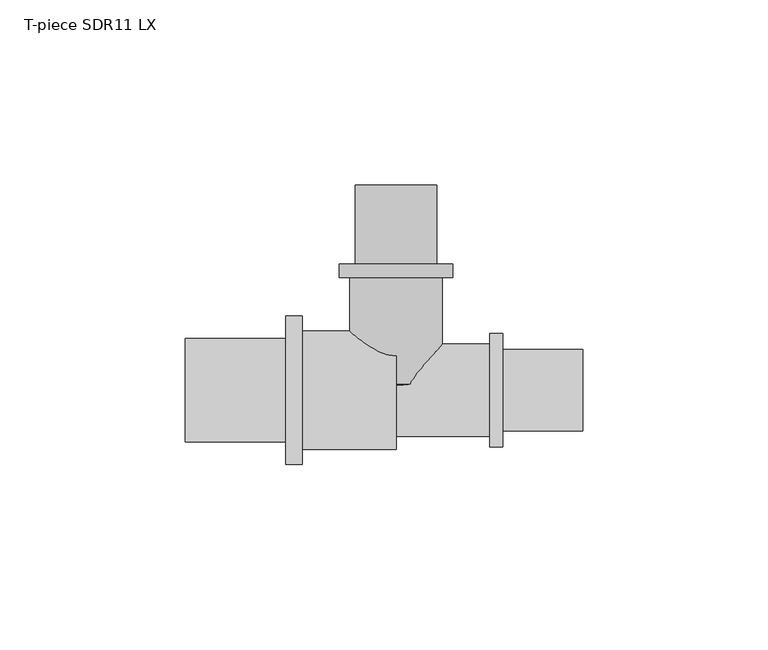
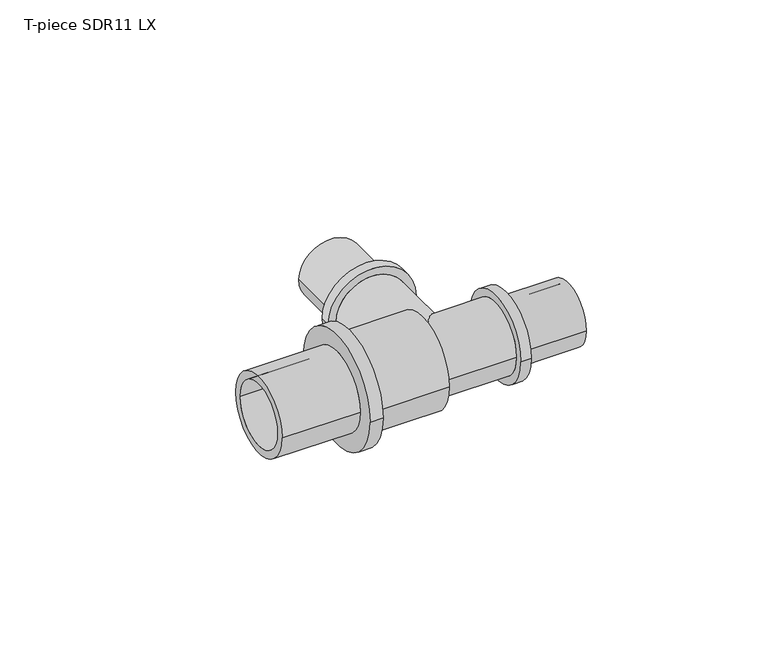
"""IFC4 building model written with IfcOpenShell, lengths in millimetres: pipe fitting geometry, T-piece SDR11 LX : T-piece LX SDR11 LX."""

from ifc_helpers import new_model, si_unit, point, frame, origin, place, context, project, spatial, polyline, circle_curve, ellipse_curve, trimmed, source, transform, mapped, element, save
from ifc_brep_helpers import plane_surface, cylinder_surface, revolved_surface, advanced_brep


def t_piece_sdr11_lx_d24ca570(model_context):
    return source(origin(), model_context, "Body", "AdvancedBrep", [
        advanced_brep(
        [(12.5, 1.6314295, 0.0), (-12.5, 1.6314295, 0.0), (-12.5, 30.4, 0.0), (12.5, 30.4, 0.0), (8.9, 55.3, 0.0), (-8.9, 55.3, 0.0), (-8.9, 0.0, 0.0), (8.9, 0.0, 0.0), (11.0, 34.0, 0.0), (-11.0, 34.0, 0.0), (-11.0, 55.3, 0.0), (11.0, 55.3, 0.0), (15.25, 30.4, 0.0), (-15.25, 30.4, 0.0), (-15.25, 34.0, 0.0), (15.25, 34.0, 0.0)],
        [
            (0, 1, circle_curve(frame((0.0, 1.6314295, 0.0), z_axis=(0.0, 1.0, 0.0), x_axis=(-1.0, 0.0, 0.0)), 12.5)),
            (1, 2),
            (2, 3, circle_curve(frame((0.0, 30.4, 0.0), z_axis=(0.0, -1.0, 0.0), x_axis=(-1.0, 0.0, 0.0)), 12.5)),
            (3, 0),
            (4, 5, circle_curve(frame((0.0, 55.3, 0.0), z_axis=(0.0, 1.0, 0.0), x_axis=(-1.0, 0.0, 0.0)), 8.9)),
            (5, 6),
            (6, 7, circle_curve(frame((0.0, 0.0, 0.0), z_axis=(0.0, -1.0, 0.0), x_axis=(-1.0, 0.0, 0.0)), 8.9)),
            (7, 4),
            (8, 9, circle_curve(frame((0.0, 34.0, 0.0), z_axis=(0.0, 1.0, 0.0), x_axis=(-1.0, 0.0, 0.0)), 11.0)),
            (9, 10),
            (10, 11, circle_curve(frame((0.0, 55.3, 0.0), z_axis=(0.0, -1.0, 0.0), x_axis=(-1.0, 0.0, 0.0)), 11.0)),
            (11, 8),
            (12, 13, circle_curve(frame((0.0, 30.4, 0.0), z_axis=(0.0, 1.0, 0.0), x_axis=(-1.0, 0.0, 0.0)), 15.25)),
            (13, 14),
            (14, 15, circle_curve(frame((0.0, 34.0, 0.0), z_axis=(0.0, -1.0, 0.0), x_axis=(-1.0, 0.0, 0.0)), 15.25)),
            (15, 12),
            (12, 13, circle_curve(frame((0.0, 30.4, 0.0), z_axis=(0.0, -1.0, 0.0), x_axis=(1.0, 0.0, 0.0)), 15.25)),
            (2, 3, circle_curve(frame((0.0, 30.4, 0.0), z_axis=(0.0, 1.0, 0.0), x_axis=(1.0, 0.0, 0.0)), 12.5)),
            (1, 0, circle_curve(frame((0.0, 1.6314295, 0.0), z_axis=(0.0, 1.0, 0.0), x_axis=(1.0, 0.0, 0.0)), 12.5)),
            (5, 4, circle_curve(frame((0.0, 55.3, 0.0), z_axis=(0.0, 1.0, 0.0), x_axis=(1.0, 0.0, 0.0)), 8.9)),
            (7, 6, circle_curve(frame((0.0, 0.0, 0.0), z_axis=(0.0, -1.0, 0.0), x_axis=(1.0, 0.0, 0.0)), 8.9)),
            (10, 11, circle_curve(frame((0.0, 55.3, 0.0), z_axis=(0.0, 1.0, 0.0), x_axis=(1.0, 0.0, 0.0)), 11.0)),
            (9, 8, circle_curve(frame((0.0, 34.0, 0.0), z_axis=(0.0, 1.0, 0.0), x_axis=(1.0, 0.0, 0.0)), 11.0)),
            (14, 15, circle_curve(frame((0.0, 34.0, 0.0), z_axis=(0.0, 1.0, 0.0), x_axis=(1.0, 0.0, 0.0)), 15.25)),
            (6, 1, circle_curve(frame((-4.1462802, 15.2775046, 0.0), z_axis=(0.0, 0.0, -1.0), x_axis=(0.0, -1.0, 0.0)), 16.0)),
            (0, 7, circle_curve(frame((4.1462802, 15.2775046, 0.0), z_axis=(0.0, 0.0, -1.0), x_axis=(0.0, -1.0, 0.0)), 16.0)),
        ],
        [
            cylinder_surface(frame((0.0, 0.0, 0.0), z_axis=(0.0, -1.0, 0.0), x_axis=(-1.0, 0.0, 0.0)), 12.5),
            revolved_surface(polyline([(-8.9, 0.0, 0.0), (-8.9, 55.3, 0.0)]), (0.0, 0.0, 0.0), (0.0, -1.0, 0.0)),
            cylinder_surface(frame((0.0, 0.0, 0.0), z_axis=(0.0, -1.0, 0.0), x_axis=(-1.0, 0.0, 0.0)), 11.0),
            cylinder_surface(frame((0.0, 0.0, 0.0), z_axis=(0.0, -1.0, 0.0), x_axis=(-1.0, 0.0, 0.0)), 15.25),
            plane_surface(frame((0.0, 30.4, 0.0), z_axis=(0.0, -1.0, 0.0), x_axis=(1.0, 0.0, 0.0))),
            cylinder_surface(frame((0.0, 0.0, 0.0), z_axis=(0.0, -1.0, 0.0), x_axis=(1.0, 0.0, 0.0)), 12.5),
            revolved_surface(polyline([(8.9, 0.0, 0.0), (8.9, 55.3, 0.0)]), (0.0, 0.0, 0.0), (0.0, -1.0, 0.0)),
            plane_surface(frame((0.0, 55.3, 0.0), z_axis=(0.0, 1.0, 0.0), x_axis=(1.0, 0.0, 0.0))),
            cylinder_surface(frame((0.0, 0.0, 0.0), z_axis=(0.0, -1.0, 0.0), x_axis=(1.0, 0.0, 0.0)), 11.0),
            plane_surface(frame((0.0, 34.0, 0.0), z_axis=(0.0, 1.0, 0.0), x_axis=(1.0, 0.0, 0.0))),
            cylinder_surface(frame((0.0, 0.0, 0.0), z_axis=(0.0, -1.0, 0.0), x_axis=(1.0, 0.0, 0.0)), 15.25),
            revolved_surface(trimmed(ellipse_curve(frame((-4.1462802, 15.2775046, 0.0), z_axis=(0.0, 0.0, 1.0), x_axis=(0.0, -1.0, 0.0)), 16.0, 16.0), [point((-12.5, 1.6314295, 0.0))], [point((-8.9, 0.0, 0.0))], True, "CARTESIAN"), (0.0, 0.0, 0.0), (0.0, -1.0, 0.0)),
            revolved_surface(trimmed(ellipse_curve(frame((4.1462802, 15.2775046, 0.0), z_axis=(0.0, 0.0, -1.0), x_axis=(0.0, -1.0, 0.0)), 16.0, 16.0), [point((12.5, 1.6314295, 0.0))], [point((8.9, 0.0, 0.0))], True, "CARTESIAN"), (0.0, 0.0, 0.0), (0.0, -1.0, 0.0)),
        ],
        [
            (0, [[1, 2, 3, 4]]),
            (1, [[5, 6, 7, 8]]),
            (2, [[9, 10, 11, 12]]),
            (3, [[13, 14, 15, 16]]),
            (4, [[17, -13], [18, -3]]),
            (5, [[19, -4, -18, -2]]),
            (6, [[20, -8, 21, -6]]),
            (7, [[22, -11], [-20, -5]]),
            (8, [[23, -12, -22, -10]]),
            (9, [[24, -15], [-23, -9]]),
            (10, [[-17, -16, -24, -14]]),
            (11, [[-7, 25, -1, 26]]),
            (12, [[-21, -26, -19, -25]]),
        ],
    ),
        advanced_brep(
        [(25.2, 12.5, 0.0), (25.2, -12.5, 0.0), (0.0, -12.5, 0.0), (0.0, 12.5, 0.0), (0.0, 8.9, 0.0), (0.0, -8.9, 0.0), (50.3, -8.9, 0.0), (50.3, 8.9, 0.0), (50.3, 11.0, 0.0), (50.3, -11.0, 0.0), (28.8, -11.0, 0.0), (28.8, 11.0, 0.0), (28.8, 15.25, 0.0), (28.8, -15.25, 0.0), (25.2, -15.25, 0.0), (25.2, 15.25, 0.0)],
        [
            (0, 1, circle_curve(frame((25.2, 0.0, 0.0), z_axis=(-1.0, 0.0, 0.0), x_axis=(0.0, -1.0, 0.0)), 12.5)),
            (1, 2),
            (2, 3, circle_curve(frame((0.0, 0.0, 0.0), z_axis=(1.0, 0.0, 0.0), x_axis=(0.0, -1.0, 0.0)), 12.5)),
            (3, 0),
            (4, 5, circle_curve(frame((0.0, 0.0, 0.0), z_axis=(-1.0, 0.0, 0.0), x_axis=(0.0, -1.0, 0.0)), 8.9)),
            (5, 6),
            (6, 7, circle_curve(frame((50.3, 0.0, 0.0), z_axis=(1.0, 0.0, 0.0), x_axis=(0.0, -1.0, 0.0)), 8.9)),
            (7, 4),
            (8, 9, circle_curve(frame((50.3, 0.0, 0.0), z_axis=(-1.0, 0.0, 0.0), x_axis=(0.0, -1.0, 0.0)), 11.0)),
            (9, 10),
            (10, 11, circle_curve(frame((28.8, 0.0, 0.0), z_axis=(1.0, 0.0, 0.0), x_axis=(0.0, -1.0, 0.0)), 11.0)),
            (11, 8),
            (12, 13, circle_curve(frame((28.8, 0.0, 0.0), z_axis=(-1.0, 0.0, 0.0), x_axis=(0.0, -1.0, 0.0)), 15.25)),
            (13, 14),
            (14, 15, circle_curve(frame((25.2, 0.0, 0.0), z_axis=(1.0, 0.0, 0.0), x_axis=(0.0, -1.0, 0.0)), 15.25)),
            (15, 12),
            (14, 15, circle_curve(frame((25.2, 0.0, 0.0), z_axis=(-1.0, 0.0, 0.0), x_axis=(0.0, 1.0, 0.0)), 15.25)),
            (0, 1, circle_curve(frame((25.2, 0.0, 0.0), z_axis=(1.0, 0.0, 0.0), x_axis=(0.0, 1.0, 0.0)), 12.5)),
            (3, 2, circle_curve(frame((0.0, 0.0, 0.0), z_axis=(1.0, 0.0, 0.0), x_axis=(0.0, 1.0, 0.0)), 12.5)),
            (4, 5, circle_curve(frame((0.0, 0.0, 0.0), z_axis=(1.0, 0.0, 0.0), x_axis=(0.0, 1.0, 0.0)), 8.9)),
            (7, 6, circle_curve(frame((50.3, 0.0, 0.0), z_axis=(1.0, 0.0, 0.0), x_axis=(0.0, 1.0, 0.0)), 8.9)),
            (8, 9, circle_curve(frame((50.3, 0.0, 0.0), z_axis=(1.0, 0.0, 0.0), x_axis=(0.0, 1.0, 0.0)), 11.0)),
            (11, 10, circle_curve(frame((28.8, 0.0, 0.0), z_axis=(1.0, 0.0, 0.0), x_axis=(0.0, 1.0, 0.0)), 11.0)),
            (12, 13, circle_curve(frame((28.8, 0.0, 0.0), z_axis=(1.0, 0.0, 0.0), x_axis=(0.0, 1.0, 0.0)), 15.25)),
        ],
        [
            cylinder_surface(frame((0.0, 0.0, 0.0), z_axis=(1.0, 0.0, 0.0), x_axis=(0.0, -1.0, 0.0)), 12.5),
            revolved_surface(polyline([(50.3, -8.9, 0.0), (0.0, -8.9, 0.0)]), (0.0, 0.0, 0.0), (1.0, 0.0, 0.0)),
            cylinder_surface(frame((0.0, 0.0, 0.0), z_axis=(1.0, 0.0, 0.0), x_axis=(0.0, -1.0, 0.0)), 11.0),
            cylinder_surface(frame((0.0, 0.0, 0.0), z_axis=(1.0, 0.0, 0.0), x_axis=(0.0, -1.0, 0.0)), 15.25),
            plane_surface(frame((25.2, 0.0, 0.0), z_axis=(-1.0, 0.0, 0.0), x_axis=(0.0, 1.0, 0.0))),
            cylinder_surface(frame((0.0, 0.0, 0.0), z_axis=(1.0, 0.0, 0.0), x_axis=(0.0, 1.0, 0.0)), 12.5),
            plane_surface(frame((0.0, 0.0, 0.0), z_axis=(-1.0, 0.0, 0.0), x_axis=(0.0, 1.0, 0.0))),
            revolved_surface(polyline([(50.3, 8.9, 0.0), (0.0, 8.9, 0.0)]), (0.0, 0.0, 0.0), (1.0, 0.0, 0.0)),
            plane_surface(frame((50.3, 0.0, 0.0), z_axis=(1.0, 0.0, 0.0), x_axis=(0.0, 1.0, 0.0))),
            cylinder_surface(frame((0.0, 0.0, 0.0), z_axis=(1.0, 0.0, 0.0), x_axis=(0.0, 1.0, 0.0)), 11.0),
            plane_surface(frame((28.8, 0.0, 0.0), z_axis=(1.0, 0.0, 0.0), x_axis=(0.0, 1.0, 0.0))),
            cylinder_surface(frame((0.0, 0.0, 0.0), z_axis=(1.0, 0.0, 0.0), x_axis=(0.0, 1.0, 0.0)), 15.25),
        ],
        [
            (0, [[1, 2, 3, 4]]),
            (1, [[5, 6, 7, 8]]),
            (2, [[9, 10, 11, 12]]),
            (3, [[13, 14, 15, 16]]),
            (4, [[17, -15], [18, -1]]),
            (5, [[-18, -4, 19, -2]]),
            (6, [[-19, -3], [20, -5]]),
            (7, [[-20, -8, 21, -6]]),
            (8, [[22, -9], [-21, -7]]),
            (9, [[-22, -12, 23, -10]]),
            (10, [[24, -13], [-23, -11]]),
            (11, [[-24, -16, -17, -14]]),
        ],
    ),
        advanced_brep(
        [(0.0, 16.0, 0.0), (0.0, -16.0, 0.0), (-25.3, -16.0, 0.0), (-25.3, 16.0, 0.0), (-56.8, 11.2, 0.0), (-56.8, -11.2, 0.0), (0.0, -11.2, 0.0), (0.0, 11.2, 0.0), (-29.8, 13.95, 0.0), (-29.8, -13.95, 0.0), (-56.8, -13.95, 0.0), (-56.8, 13.95, 0.0), (-25.3, 20.0, 0.0), (-25.3, -20.0, 0.0), (-29.8, -20.0, 0.0), (-29.8, 20.0, 0.0)],
        [
            (0, 1, circle_curve(frame((0.0, 0.0, 0.0), z_axis=(-1.0, 0.0, 0.0), x_axis=(0.0, -1.0, 0.0)), 16.0)),
            (1, 2),
            (2, 3, circle_curve(frame((-25.3, 0.0, 0.0), z_axis=(1.0, 0.0, 0.0), x_axis=(0.0, -1.0, 0.0)), 16.0)),
            (3, 0),
            (4, 5, circle_curve(frame((-56.8, 0.0, 0.0), z_axis=(-1.0, 0.0, 0.0), x_axis=(0.0, -1.0, 0.0)), 11.2)),
            (5, 6),
            (6, 7, circle_curve(frame((0.0, 0.0, 0.0), z_axis=(1.0, 0.0, 0.0), x_axis=(0.0, -1.0, 0.0)), 11.2)),
            (7, 4),
            (8, 9, circle_curve(frame((-29.8, 0.0, 0.0), z_axis=(-1.0, 0.0, 0.0), x_axis=(0.0, -1.0, 0.0)), 13.95)),
            (9, 10),
            (10, 11, circle_curve(frame((-56.8, 0.0, 0.0), z_axis=(1.0, 0.0, 0.0), x_axis=(0.0, -1.0, 0.0)), 13.95)),
            (11, 8),
            (12, 13, circle_curve(frame((-25.3, 0.0, 0.0), z_axis=(-1.0, 0.0, 0.0), x_axis=(0.0, -1.0, 0.0)), 20.0)),
            (13, 14),
            (14, 15, circle_curve(frame((-29.8, 0.0, 0.0), z_axis=(1.0, 0.0, 0.0), x_axis=(0.0, -1.0, 0.0)), 20.0)),
            (15, 12),
            (12, 13, circle_curve(frame((-25.3, 0.0, 0.0), z_axis=(1.0, 0.0, 0.0), x_axis=(0.0, 1.0, 0.0)), 20.0)),
            (2, 3, circle_curve(frame((-25.3, 0.0, 0.0), z_axis=(-1.0, 0.0, 0.0), x_axis=(0.0, 1.0, 0.0)), 16.0)),
            (1, 0, circle_curve(frame((0.0, 0.0, 0.0), z_axis=(-1.0, 0.0, 0.0), x_axis=(0.0, 1.0, 0.0)), 16.0)),
            (6, 7, circle_curve(frame((0.0, 0.0, 0.0), z_axis=(-1.0, 0.0, 0.0), x_axis=(0.0, 1.0, 0.0)), 11.2)),
            (5, 4, circle_curve(frame((-56.8, 0.0, 0.0), z_axis=(-1.0, 0.0, 0.0), x_axis=(0.0, 1.0, 0.0)), 11.2)),
            (10, 11, circle_curve(frame((-56.8, 0.0, 0.0), z_axis=(-1.0, 0.0, 0.0), x_axis=(0.0, 1.0, 0.0)), 13.95)),
            (9, 8, circle_curve(frame((-29.8, 0.0, 0.0), z_axis=(-1.0, 0.0, 0.0), x_axis=(0.0, 1.0, 0.0)), 13.95)),
            (14, 15, circle_curve(frame((-29.8, 0.0, 0.0), z_axis=(-1.0, 0.0, 0.0), x_axis=(0.0, 1.0, 0.0)), 20.0)),
        ],
        [
            cylinder_surface(frame((0.0, 0.0, 0.0), z_axis=(1.0, 0.0, 0.0), x_axis=(0.0, -1.0, 0.0)), 16.0),
            revolved_surface(polyline([(0.0, -11.2, 0.0), (-56.8, -11.2, 0.0)]), (0.0, 0.0, 0.0), (1.0, 0.0, 0.0)),
            cylinder_surface(frame((0.0, 0.0, 0.0), z_axis=(1.0, 0.0, 0.0), x_axis=(0.0, -1.0, 0.0)), 13.95),
            cylinder_surface(frame((0.0, 0.0, 0.0), z_axis=(1.0, 0.0, 0.0), x_axis=(0.0, -1.0, 0.0)), 20.0),
            plane_surface(frame((-25.3, 0.0, 0.0), z_axis=(1.0, 0.0, 0.0), x_axis=(0.0, 1.0, 0.0))),
            cylinder_surface(frame((0.0, 0.0, 0.0), z_axis=(1.0, 0.0, 0.0), x_axis=(0.0, 1.0, 0.0)), 16.0),
            plane_surface(frame((0.0, 0.0, 0.0), z_axis=(1.0, 0.0, 0.0), x_axis=(0.0, 1.0, 0.0))),
            revolved_surface(polyline([(0.0, 11.2, 0.0), (-56.8, 11.2, 0.0)]), (0.0, 0.0, 0.0), (1.0, 0.0, 0.0)),
            plane_surface(frame((-56.8, 0.0, 0.0), z_axis=(-1.0, 0.0, 0.0), x_axis=(0.0, 1.0, 0.0))),
            cylinder_surface(frame((0.0, 0.0, 0.0), z_axis=(1.0, 0.0, 0.0), x_axis=(0.0, 1.0, 0.0)), 13.95),
            plane_surface(frame((-29.8, 0.0, 0.0), z_axis=(-1.0, 0.0, 0.0), x_axis=(0.0, 1.0, 0.0))),
            cylinder_surface(frame((0.0, 0.0, 0.0), z_axis=(1.0, 0.0, 0.0), x_axis=(0.0, 1.0, 0.0)), 20.0),
        ],
        [
            (0, [[1, 2, 3, 4]]),
            (1, [[5, 6, 7, 8]]),
            (2, [[9, 10, 11, 12]]),
            (3, [[13, 14, 15, 16]]),
            (4, [[17, -13], [18, -3]]),
            (5, [[19, -4, -18, -2]]),
            (6, [[-19, -1], [20, -7]]),
            (7, [[21, -8, -20, -6]]),
            (8, [[22, -11], [-21, -5]]),
            (9, [[23, -12, -22, -10]]),
            (10, [[24, -15], [-23, -9]]),
            (11, [[-17, -16, -24, -14]]),
        ],
    ),
    ])


if __name__ == "__main__":
    model = new_model("IFC4")
    model_context = context("Model", 3, world=origin())
    ifc_project = project(units=[si_unit("LENGTHUNIT", "METRE", prefix="MILLI")], contexts=[model_context])
    site = spatial("IfcSite", under=ifc_project)
    building = spatial("IfcBuilding", under=site)
    placement = place(None, origin())
    t_piece_sdr11_lx_shape = t_piece_sdr11_lx_d24ca570(model_context)
    element("IfcPipeFitting", 1, ObjectType="T-piece SDR11 LX : T-piece LX SDR11 LX", at=placement, inside=building, context=model_context, shape_type="MappedRepresentation", body=[
        mapped(t_piece_sdr11_lx_shape, transform((0.0, 0.0, 0.0), x_axis=(1.0, 0.0, 0.0), y_axis=(0.0, 1.0, 0.0), z_axis=(0.0, 0.0, 1.0))),
    ])
    save(model, "model.ifc")
